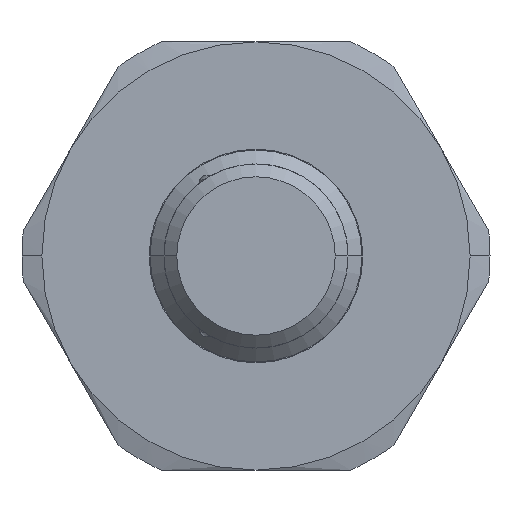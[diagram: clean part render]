
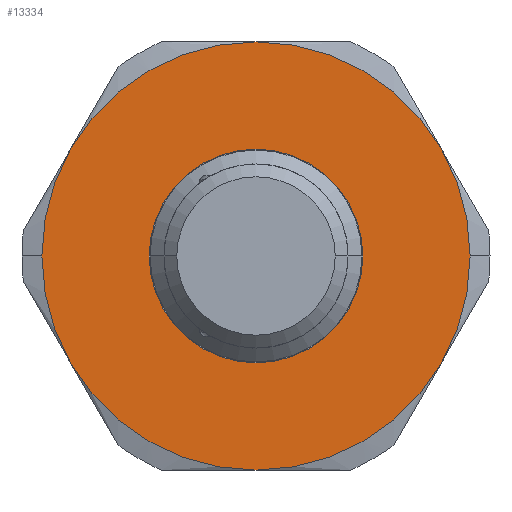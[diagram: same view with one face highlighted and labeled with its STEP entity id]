
A CAD part, left-side view. The second image highlights one B-rep face of the part: STEP entity #13334.
In plain terms, the highlighted free-form (B-spline) face has degree [1, 1] with [2, 2] control points.
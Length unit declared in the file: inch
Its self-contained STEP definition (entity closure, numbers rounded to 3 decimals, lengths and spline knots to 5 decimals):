
#2725=CARTESIAN_POINT('',(-0.219,0.2495,0.0));
#2726=VERTEX_POINT('',#2725);
#2735=CARTESIAN_POINT('',(-0.219,-0.2495,0.));
#2736=VERTEX_POINT('',#2735);
#2737=CARTESIAN_POINT('',(-0.219,0.0,0.0));
#2738=DIRECTION('',(1.0,0.0,0.0));
#2739=DIRECTION('',(0.0,1.0,0.0));
#2740=AXIS2_PLACEMENT_3D('',#2737,#2738,#2739);
#2741=CIRCLE('',#2740,0.2495);
#2742=EDGE_CURVE('',#2736,#2726,#2741,.T.);
#8279=CARTESIAN_POINT('',(-0.219,0.5,0.));
#8280=VERTEX_POINT('',#8279);
#8287=CARTESIAN_POINT('',(-0.219,0.43301,0.25));
#8288=VERTEX_POINT('',#8287);
#8289=CARTESIAN_POINT('',(-0.219,0.0,0.0));
#8290=DIRECTION('',(1.0,0.0,0.0));
#8291=DIRECTION('',(0.0,-1.0,0.0));
#8292=AXIS2_PLACEMENT_3D('',#8289,#8290,#8291);
#8293=CIRCLE('',#8292,0.5);
#8294=EDGE_CURVE('',#8280,#8288,#8293,.T.);
#8347=CARTESIAN_POINT('',(-0.219,-0.5,0.));
#8348=VERTEX_POINT('',#8347);
#8356=CARTESIAN_POINT('',(-0.219,-0.43301,0.25));
#8357=VERTEX_POINT('',#8356);
#8371=CARTESIAN_POINT('',(-0.219,0.0,0.0));
#8372=DIRECTION('',(1.0,0.0,0.0));
#8373=DIRECTION('',(0.0,-1.0,0.0));
#8374=AXIS2_PLACEMENT_3D('',#8371,#8372,#8373);
#8375=CIRCLE('',#8374,0.5);
#8376=EDGE_CURVE('',#8357,#8348,#8375,.T.);
#13265=CARTESIAN_POINT('',(-0.219,0.5,0.5));
#13266=CARTESIAN_POINT('',(-0.219,-0.5,0.5));
#13267=CARTESIAN_POINT('',(-0.219,0.5,-0.5));
#13268=CARTESIAN_POINT('',(-0.219,-0.5,-0.5));
#13269=B_SPLINE_SURFACE_WITH_KNOTS('',1,1,((#13265,#13267),(#13266,#13268)),.UNSPECIFIED.,.F.,.F.,.U.,(2,2),(2,2),(0.0,1.),(0.0,1.),.UNSPECIFIED.);
#13270=CARTESIAN_POINT('',(-0.219,-0.43301,-0.25));
#13271=VERTEX_POINT('',#13270);
#13272=CARTESIAN_POINT('',(-0.219,0.0,-0.5));
#13273=VERTEX_POINT('',#13272);
#13274=CARTESIAN_POINT('',(-0.219,0.0,0.0));
#13275=DIRECTION('',(1.0,0.0,0.0));
#13276=DIRECTION('',(0.0,-1.0,0.0));
#13277=AXIS2_PLACEMENT_3D('',#13274,#13275,#13276);
#13278=CIRCLE('',#13277,0.5);
#13279=EDGE_CURVE('',#13271,#13273,#13278,.T.);
#13280=ORIENTED_EDGE('',*,*,#13279,.F.);
#13281=CARTESIAN_POINT('',(-0.219,0.0,0.0));
#13282=DIRECTION('',(1.0,0.0,0.0));
#13283=DIRECTION('',(0.0,-1.0,0.0));
#13284=AXIS2_PLACEMENT_3D('',#13281,#13282,#13283);
#13285=CIRCLE('',#13284,0.5);
#13286=EDGE_CURVE('',#8348,#13271,#13285,.T.);
#13287=ORIENTED_EDGE('',*,*,#13286,.F.);
#13288=ORIENTED_EDGE('',*,*,#8376,.F.);
#13289=CARTESIAN_POINT('',(-0.219,0.0,0.5));
#13290=VERTEX_POINT('',#13289);
#13291=CARTESIAN_POINT('',(-0.219,0.0,0.0));
#13292=DIRECTION('',(1.0,0.0,0.0));
#13293=DIRECTION('',(0.0,-1.0,0.0));
#13294=AXIS2_PLACEMENT_3D('',#13291,#13292,#13293);
#13295=CIRCLE('',#13294,0.5);
#13296=EDGE_CURVE('',#13290,#8357,#13295,.T.);
#13297=ORIENTED_EDGE('',*,*,#13296,.F.);
#13298=CARTESIAN_POINT('',(-0.219,0.0,0.0));
#13299=DIRECTION('',(1.0,0.0,0.0));
#13300=DIRECTION('',(0.0,-1.0,0.0));
#13301=AXIS2_PLACEMENT_3D('',#13298,#13299,#13300);
#13302=CIRCLE('',#13301,0.5);
#13303=EDGE_CURVE('',#8288,#13290,#13302,.T.);
#13304=ORIENTED_EDGE('',*,*,#13303,.F.);
#13305=ORIENTED_EDGE('',*,*,#8294,.F.);
#13306=CARTESIAN_POINT('',(-0.219,0.43301,-0.25));
#13307=VERTEX_POINT('',#13306);
#13308=CARTESIAN_POINT('',(-0.219,0.0,0.0));
#13309=DIRECTION('',(1.0,0.0,0.0));
#13310=DIRECTION('',(0.0,-1.0,0.0));
#13311=AXIS2_PLACEMENT_3D('',#13308,#13309,#13310);
#13312=CIRCLE('',#13311,0.5);
#13313=EDGE_CURVE('',#13307,#8280,#13312,.T.);
#13314=ORIENTED_EDGE('',*,*,#13313,.F.);
#13315=CARTESIAN_POINT('',(-0.219,0.0,0.0));
#13316=DIRECTION('',(1.0,0.0,0.0));
#13317=DIRECTION('',(0.0,-1.0,0.0));
#13318=AXIS2_PLACEMENT_3D('',#13315,#13316,#13317);
#13319=CIRCLE('',#13318,0.5);
#13320=EDGE_CURVE('',#13273,#13307,#13319,.T.);
#13321=ORIENTED_EDGE('',*,*,#13320,.F.);
#13322=EDGE_LOOP('',(#13280,#13287,#13288,#13297,#13304,#13305,#13314,#13321));
#13323=FACE_OUTER_BOUND('',#13322,.T.);
#13324=CARTESIAN_POINT('',(-0.219,0.0,0.0));
#13325=DIRECTION('',(1.0,0.0,0.0));
#13326=DIRECTION('',(0.0,1.0,0.0));
#13327=AXIS2_PLACEMENT_3D('',#13324,#13325,#13326);
#13328=CIRCLE('',#13327,0.2495);
#13329=EDGE_CURVE('',#2726,#2736,#13328,.T.);
#13330=ORIENTED_EDGE('',*,*,#13329,.T.);
#13331=ORIENTED_EDGE('',*,*,#2742,.T.);
#13332=EDGE_LOOP('',(#13330,#13331));
#13333=FACE_BOUND('',#13332,.T.);
#13334=ADVANCED_FACE('',(#13323,#13333),#13269,.F.);
